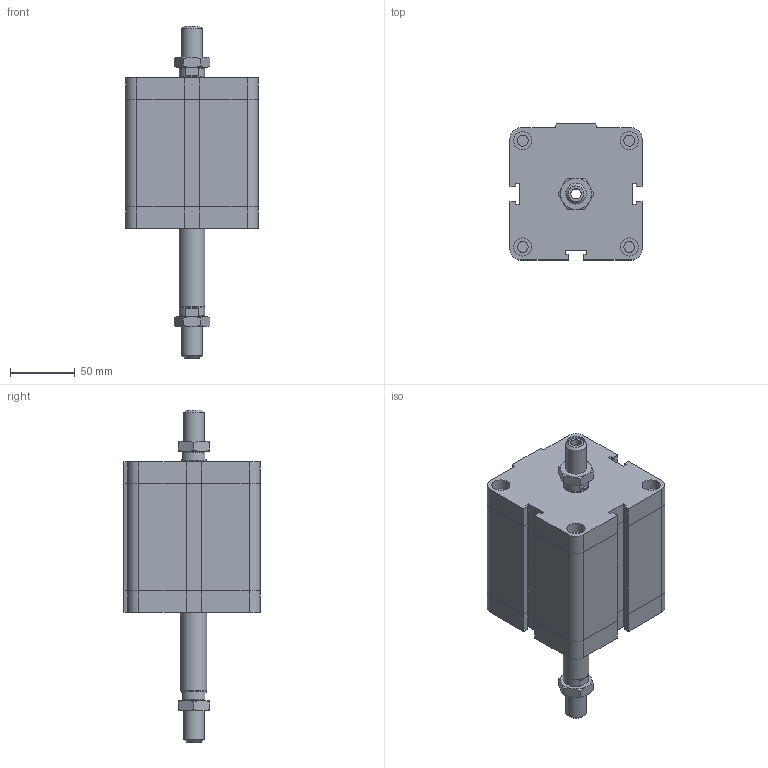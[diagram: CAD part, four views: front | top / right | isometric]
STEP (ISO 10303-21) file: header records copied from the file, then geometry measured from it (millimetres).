
FILE_DESCRIPTION((''),'2;1');
FILE_NAME('I:\Area Tecnica\Disegni\VARIE-3D\Componenti\EUROPE\15##_###_####_05_#\1581_80_0060_05_1.iam.stp','2009-04-20T15:03:09',(''),(''),'Autodesk Inventor 2009','Autodesk Inventor 2009','');
FILE_SCHEMA(('AUTOMOTIVE_DESIGN { 1 0 10303 214 1 1 1 1 }'));
Length unit declared in the file: millimetre
Products named in the file (4): 1581_80_0060_05_1; 1581_80_0060_03_1_C; 1561_80_0060_05_1_S; DBFM16
Assembly tree (4 placements, depth 2):
  1581_80_0060_05_1
    1581_80_0060_03_1_C
    1561_80_0060_05_1_S
    DBFM16  x2
Bounding box: 102 x 105 x 256 mm (x, y, z)
Volume: 1185285.2 mm3; surface area: 113147.8 mm2
Topology: 4 solids, 4 shells, 223 faces, 486 edges, 291 vertices
Faces by surface type: plane 129, cone 37, bspline 32, cylinder 25
Full cylindrical faces by diameter (mm): 8.376 x4, 14 x4, 14.5 x1, 16 x1, 19.5 x2, 20 x1
Entity records: 5484 total; most frequent: CARTESIAN_POINT 1227, DIRECTION 808, ORIENTED_EDGE 776, EDGE_CURVE 388, AXIS2_PLACEMENT_3D 275, EDGE_LOOP 262, VECTOR 258, LINE 258
